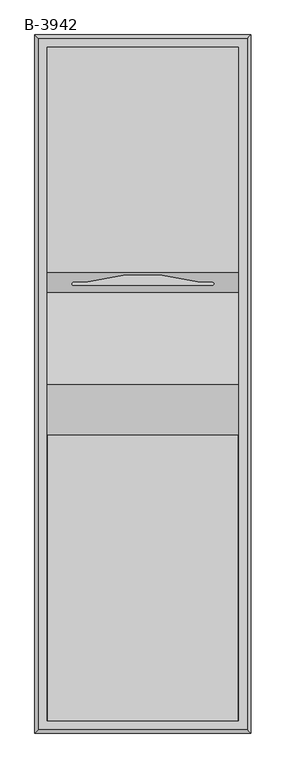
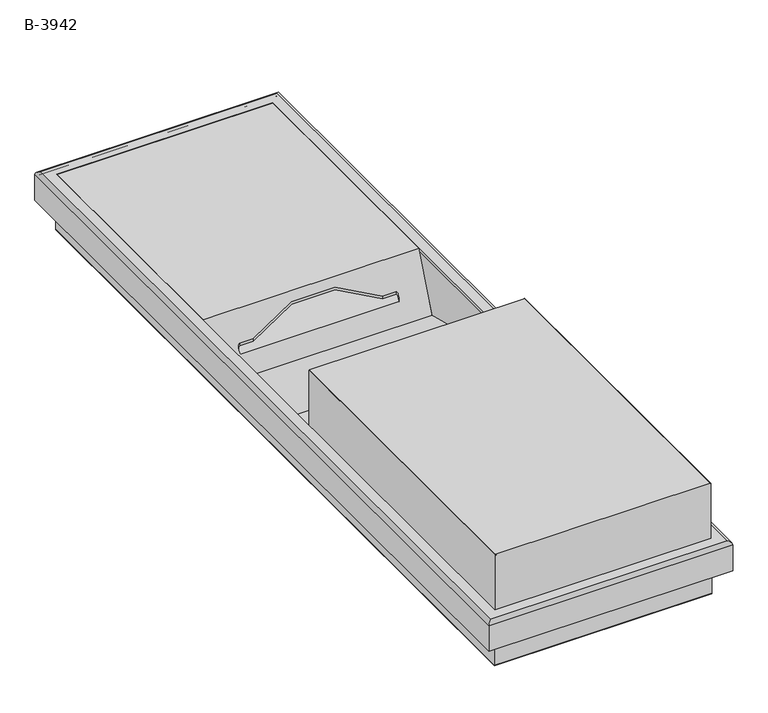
"""IFC4 building model written with IfcOpenShell, lengths in millimetres: proxy geometry, Paper_Towel_Dispenser_And_Waste_Receptacle-Bobrick-B3942-Semi_Recessed_Convertible : B-3942."""

from ifc_helpers import new_model, si_unit, frame, origin, place, context, project, spatial, polyline, circle_curve, ellipse_curve, outline, extrude, source, transform, mapped, element, save
from ifc_brep_helpers import plane_surface, cylinder_surface, revolved_surface, advanced_brep


def b_3942_52b249c4(model_context):
    return source(origin(), model_context, "Body", "SolidModel", [
        advanced_brep(
        [(215.10625, -708.025, 55.5625), (221.45625, -714.375, 49.2125), (221.45625, 714.375, 49.2125), (215.10625, 708.025, 55.5625), (196.05625, -688.975, 50.8), (196.05625, -688.975, 55.5625), (196.05625, 688.975, 55.5625), (196.05625, 688.975, 50.8), (216.69375, -709.6125, 47.625), (213.51875, -706.4375, 50.8), (213.51875, 706.4375, 50.8), (216.69375, 709.6125, 47.625), (216.69375, 709.6125, 0.0), (216.69375, -709.6125, 0.0), (221.45625, -714.375, 0.0), (221.45625, 714.375, 0.0), (-221.45625, 714.375, 49.2125), (-215.10625, 708.025, 55.5625), (-196.05625, 688.975, 55.5625), (-196.05625, 688.975, 50.8), (-213.51875, 706.4375, 50.8), (-216.69375, 709.6125, 47.625), (-216.69375, 709.6125, 0.0), (-221.45625, 714.375, 0.0), (-221.45625, -714.375, 49.2125), (-215.10625, -708.025, 55.5625), (-196.05625, -688.975, 55.5625), (-196.05625, -688.975, 50.8), (-213.51875, -706.4375, 50.8), (-216.69375, -709.6125, 47.625), (-216.69375, -709.6125, 0.0), (-221.45625, -714.375, 0.0)],
        [
            (0, 1, ellipse_curve(frame((215.10625, -708.025, 49.2125), z_axis=(0.7071067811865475, 0.7071067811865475, 0.0), x_axis=(0.7071067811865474, -0.7071067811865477, 0.0)), 8.9802561, 6.35)),
            (1, 2),
            (2, 3, ellipse_curve(frame((215.10625, 708.025, 49.2125), z_axis=(0.7071067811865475, -0.7071067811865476, 0.0), x_axis=(-0.7071067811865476, -0.7071067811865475, 0.0)), 8.9802561, 6.35)),
            (3, 0),
            (4, 5),
            (5, 6),
            (6, 7),
            (7, 4),
            (8, 9, ellipse_curve(frame((213.51875, -706.4375, 47.625), z_axis=(-0.7071067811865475, -0.7071067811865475, 0.0), x_axis=(-0.7071067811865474, 0.7071067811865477, 0.0)), 4.4901281, 3.175)),
            (9, 10),
            (10, 11, ellipse_curve(frame((213.51875, 706.4375, 47.625), z_axis=(-0.7071067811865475, 0.7071067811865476, 0.0), x_axis=(0.7071067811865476, 0.7071067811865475, 0.0)), 4.4901281, 3.175)),
            (11, 8),
            (11, 12),
            (12, 13),
            (13, 8),
            (1, 14),
            (14, 15),
            (15, 2),
            (2, 16),
            (16, 17, ellipse_curve(frame((-215.10625, 708.025, 49.2125), z_axis=(0.7071067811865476, 0.7071067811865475, 0.0), x_axis=(0.7071067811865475, -0.7071067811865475, 0.0)), 8.9802561, 6.35)),
            (17, 3),
            (6, 18),
            (18, 19),
            (19, 7),
            (10, 20),
            (20, 21, ellipse_curve(frame((-213.51875, 706.4375, 47.625), z_axis=(-0.7071067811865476, -0.7071067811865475, 0.0), x_axis=(-0.7071067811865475, 0.7071067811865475, 0.0)), 4.4901281, 3.175)),
            (21, 11),
            (21, 22),
            (22, 12),
            (15, 23),
            (23, 16),
            (16, 24),
            (24, 25, ellipse_curve(frame((-215.10625, -708.025, 49.2125), z_axis=(-0.7071067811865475, 0.7071067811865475, 0.0), x_axis=(0.7071067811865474, 0.7071067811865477, 0.0)), 8.9802561, 6.35)),
            (25, 17),
            (18, 26),
            (26, 27),
            (27, 19),
            (20, 28),
            (28, 29, ellipse_curve(frame((-213.51875, -706.4375, 47.625), z_axis=(0.7071067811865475, -0.7071067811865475, 0.0), x_axis=(-0.7071067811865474, -0.7071067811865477, 0.0)), 4.4901281, 3.175)),
            (29, 21),
            (29, 30),
            (30, 22),
            (23, 31),
            (31, 24),
            (0, 25),
            (24, 1),
            (5, 26),
            (4, 27),
            (9, 28),
            (8, 29),
            (13, 30),
            (14, 31),
        ],
        [
            cylinder_surface(frame((215.10625, -714.375, 49.2125), z_axis=(0.0, -1.0, 0.0), x_axis=(-1.0, 0.0, 0.0)), 6.35),
            plane_surface(frame((196.05625, -688.975, 55.5625), z_axis=(-1.0, 0.0, 0.0), x_axis=(0.0, 1.0, 0.0))),
            revolved_surface(polyline([(210.34375, 709.6125000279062, 47.625), (210.34375, -709.6125000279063, 47.625)]), (213.51875, -714.375, 47.625), (0.0, 1.0, 0.0)),
            plane_surface(frame((216.69375, -709.6125, 47.625), z_axis=(-1.0, 0.0, 0.0), x_axis=(0.0, 1.0, 0.0))),
            plane_surface(frame((221.45625, -714.375, 0.0), z_axis=(1.0, 0.0, 0.0), x_axis=(0.0, 1.0, 0.0))),
            cylinder_surface(frame((221.45625, 708.025, 49.2125), z_axis=(1.0, 0.0, 0.0), x_axis=(0.0, -1.0, 0.0)), 6.35),
            plane_surface(frame((196.05625, 688.975, 55.5625), z_axis=(0.0, -1.0, 0.0), x_axis=(-1.0, 0.0, 0.0))),
            revolved_surface(polyline([(-216.69375002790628, 703.2625, 47.625), (216.69375002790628, 703.2625, 47.625)]), (221.45625, 706.4375, 47.625), (-1.0, 0.0, 0.0)),
            plane_surface(frame((216.69375, 709.6125, 47.625), z_axis=(0.0, -1.0, 0.0), x_axis=(-1.0, 0.0, 0.0))),
            plane_surface(frame((221.45625, 714.375, 0.0), z_axis=(0.0, 1.0, 0.0), x_axis=(-1.0, 0.0, 0.0))),
            cylinder_surface(frame((-215.10625, 714.375, 49.2125), z_axis=(0.0, 1.0, 0.0), x_axis=(1.0, 0.0, 0.0)), 6.35),
            plane_surface(frame((-196.05625, 688.975, 55.5625), z_axis=(1.0, 0.0, 0.0), x_axis=(0.0, -1.0, 0.0))),
            revolved_surface(polyline([(-210.34375, -709.6125000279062, 47.625), (-210.34375, 709.6125000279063, 47.625)]), (-213.51875, 714.375, 47.625), (0.0, -1.0, 0.0)),
            plane_surface(frame((-216.69375, 709.6125, 47.625), z_axis=(1.0, 0.0, 0.0), x_axis=(0.0, -1.0, 0.0))),
            plane_surface(frame((-221.45625, 714.375, 0.0), z_axis=(-1.0, 0.0, 0.0), x_axis=(0.0, -1.0, 0.0))),
            cylinder_surface(frame((-221.45625, -708.025, 49.2125), z_axis=(-1.0, 0.0, 0.0), x_axis=(0.0, 1.0, 0.0)), 6.35),
            plane_surface(frame((-215.10625, -708.025, 55.5625), z_axis=(0.0, 0.0, 1.0), x_axis=(1.0, 0.0, 0.0))),
            plane_surface(frame((-196.05625, -688.975, 55.5625), z_axis=(0.0, 1.0, 0.0), x_axis=(1.0, 0.0, 0.0))),
            plane_surface(frame((-196.05625, -688.975, 50.8), z_axis=(0.0, 0.0, -1.0), x_axis=(1.0, 0.0, 0.0))),
            revolved_surface(polyline([(216.69375002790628, -703.2625, 47.625), (-216.69375002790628, -703.2625, 47.625)]), (-221.45625, -706.4375, 47.625), (1.0, 0.0, 0.0)),
            plane_surface(frame((-216.69375, -709.6125, 47.625), z_axis=(0.0, 1.0, 0.0), x_axis=(1.0, 0.0, 0.0))),
            plane_surface(frame((-216.69375, -709.6125, 0.0), z_axis=(0.0, 0.0, -1.0), x_axis=(1.0, 0.0, 0.0))),
            plane_surface(frame((-221.45625, -714.375, 0.0), z_axis=(0.0, -1.0, 0.0), x_axis=(1.0, 0.0, 0.0))),
        ],
        [
            (0, [[1, 2, 3, 4]]),
            (1, [[5, 6, 7, 8]]),
            (2, [[9, 10, 11, 12]]),
            (3, [[-12, 13, 14, 15]]),
            (4, [[-2, 16, 17, 18]]),
            (5, [[-3, 19, 20, 21]]),
            (6, [[-7, 22, 23, 24]]),
            (7, [[-11, 25, 26, 27]]),
            (8, [[-13, -27, 28, 29]]),
            (9, [[-18, 30, 31, -19]]),
            (10, [[-20, 32, 33, 34]]),
            (11, [[-23, 35, 36, 37]]),
            (12, [[-26, 38, 39, 40]]),
            (13, [[-28, -40, 41, 42]]),
            (14, [[-31, 43, 44, -32]]),
            (15, [[-1, 45, -33, 46]]),
            (16, [[-4, -21, -34, -45], [-6, 47, -35, -22]]),
            (17, [[-5, 48, -36, -47]]),
            (18, [[-10, 49, -38, -25], [-8, -24, -37, -48]]),
            (19, [[-9, 50, -39, -49]]),
            (20, [[-15, 51, -41, -50]]),
            (21, [[-17, 52, -43, -30], [-14, -29, -42, -51]]),
            (22, [[-16, -46, -44, -52]]),
        ],
    ),
        advanced_brep(
        [(197.64375, 690.5625, 50.8), (-197.64375, 690.5625, 50.8), (-197.64375, -690.5625, 50.8), (197.64375, -690.5625, 50.8), (196.05625, -688.975, 50.8), (-196.05625, -688.975, 50.8), (-196.05625, 226.695, 50.8), (-196.05625, 228.6, 50.8), (-196.05625, 688.975, 50.8), (196.05625, 688.975, 50.8), (196.05625, 228.6, 50.8), (196.05625, 226.695, 50.8), (197.64375, 690.5625, -49.2125), (197.64375, -690.5625, -49.2125), (-197.64375, -690.5625, -49.2125), (-197.64375, 690.5625, -49.2125), (196.05625, 688.975, -49.2125), (-196.05625, 688.975, -49.2125), (-196.05625, 188.595, -49.2125), (196.05625, 188.595, -49.2125), (-196.05625, -688.975, -49.2125), (196.05625, -688.975, -49.2125), (196.05625, -104.775, -49.2125), (-196.05625, -104.775, -49.2125), (196.05625, 187.325, -47.625), (196.05625, 0.0, 0.0), (-196.05625, 0.0, 0.0), (-196.05625, 187.325, -47.625), (196.05625, 688.975, 50.8), (196.05625, 688.975, 55.5625), (196.05625, 228.6, 55.5625), (-196.05625, 228.6, 55.5625), (-196.05625, 688.975, 55.5625), (-196.05625, 688.975, 50.8), (142.08125, 201.6125, -11.90625), (-142.08125, 201.6125, -11.90625), (-142.08125, 207.9625, 3.96875), (-117.475, 207.9625, 3.96875), (117.475, 207.9625, 3.96875), (142.08125, 207.9625, 3.96875), (-142.08125, 201.6125, -16.66875), (142.08125, 201.6125, -16.66875), (142.08125, 207.9625, -0.79375), (117.475, 207.9625, -0.79375), (-117.475, 207.9625, -0.79375), (-142.08125, 207.9625, -0.79375)],
        [
            (0, 1),
            (1, 2),
            (2, 3),
            (3, 0),
            (4, 5),
            (5, 6),
            (6, 7),
            (7, 8),
            (8, 9),
            (9, 10),
            (10, 11),
            (11, 4),
            (12, 13),
            (13, 14),
            (14, 15),
            (15, 12),
            (16, 17),
            (17, 18),
            (18, 19),
            (19, 16),
            (20, 21),
            (21, 22),
            (22, 23),
            (23, 20),
            (0, 12),
            (15, 1),
            (14, 2),
            (13, 3),
            (9, 16),
            (19, 10),
            (21, 4),
            (11, 24),
            (24, 25),
            (25, 22),
            (20, 5),
            (23, 26),
            (26, 27),
            (27, 6),
            (17, 8),
            (7, 18),
            (10, 28),
            (28, 29),
            (29, 30),
            (30, 11),
            (31, 32),
            (32, 33),
            (33, 7),
            (6, 31),
            (10, 7),
            (33, 28),
            (32, 29),
            (31, 30),
            (27, 24),
            (34, 35),
            (35, 36, ellipse_curve(frame((-142.08125, 204.7875, -3.96875), z_axis=(0.0, 0.9284766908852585, -0.37139067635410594), x_axis=(0.0, -0.371390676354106, -0.9284766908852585)), 8.5489491, 3.175)),
            (36, 37),
            (37, 38, ellipse_curve(frame((0.0, -215.9738116, -1055.872029), z_axis=(0.0, 0.9284766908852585, -0.37139067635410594), x_axis=(0.0, -0.371390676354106, -0.9284766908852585)), 1184.498711, 439.9117774)),
            (38, 39),
            (39, 34, ellipse_curve(frame((142.08125, 204.7875, -3.96875), z_axis=(0.0, 0.9284766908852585, -0.37139067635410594), x_axis=(0.0, -0.371390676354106, -0.9284766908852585)), 8.5489491, 3.175)),
            (40, 41),
            (41, 42, ellipse_curve(frame((142.08125, 204.7875, -8.73125), z_axis=(0.0, -0.9284766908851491, 0.3713906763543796), x_axis=(0.0, -0.3713906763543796, -0.928476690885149)), 8.5489491, 3.175)),
            (42, 43),
            (43, 44, ellipse_curve(frame((0.0, -215.9738116, -1060.634529), z_axis=(0.0, -0.9284766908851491, 0.3713906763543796), x_axis=(0.0, -0.3713906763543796, -0.928476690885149)), 1184.498711, 439.9117774)),
            (44, 45),
            (45, 40, ellipse_curve(frame((-142.08125, 204.7875, -8.73125), z_axis=(0.0, -0.9284766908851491, 0.3713906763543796), x_axis=(0.0, -0.3713906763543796, -0.928476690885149)), 8.5489491, 3.175)),
            (26, 25),
            (34, 41),
            (40, 35),
            (45, 36),
            (44, 37),
            (43, 38),
            (42, 39),
        ],
        [
            plane_surface(frame((-197.64375, 690.5625, 50.8), z_axis=(0.0, 0.0, 1.0), x_axis=(-1.0, 0.0, 0.0))),
            plane_surface(frame((-197.64375, 690.5625, -49.2125), z_axis=(0.0, 0.0, -1.0), x_axis=(1.0, 0.0, 0.0))),
            plane_surface(frame((197.64375, 690.5625, 50.8), z_axis=(0.0, 1.0, 0.0), x_axis=(0.0, 0.0, -1.0))),
            plane_surface(frame((-197.64375, 690.5625, 50.8), z_axis=(-1.0, 0.0, 0.0), x_axis=(0.0, 0.0, -1.0))),
            plane_surface(frame((-197.64375, -690.5625, 50.8), z_axis=(0.0, -1.0, 0.0), x_axis=(0.0, 0.0, -1.0))),
            plane_surface(frame((197.64375, -690.5625, 50.8), z_axis=(1.0, 0.0, 0.0), x_axis=(0.0, 0.0, -1.0))),
            plane_surface(frame((196.05625, 688.975, 50.8), z_axis=(-1.0, 0.0, 0.0), x_axis=(0.0, 0.0, -1.0))),
            plane_surface(frame((196.05625, -688.975, 50.8), z_axis=(0.0, 1.0, 0.0), x_axis=(0.0, 0.0, -1.0))),
            plane_surface(frame((-196.05625, -688.975, 50.8), z_axis=(1.0, 0.0, 0.0), x_axis=(0.0, 0.0, -1.0))),
            plane_surface(frame((-196.05625, 688.975, 50.8), z_axis=(0.0, -1.0, 0.0), x_axis=(0.0, 0.0, -1.0))),
            plane_surface(frame((196.05625, 228.6, 55.5625), z_axis=(1.0000000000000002, 0.0, 0.0), x_axis=(0.0, -0.37139067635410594, -0.9284766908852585))),
            plane_surface(frame((-196.05625, 228.6, 55.5625), z_axis=(-1.0000000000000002, 0.0, 0.0), x_axis=(0.0, 0.37139067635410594, 0.9284766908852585))),
            plane_surface(frame((196.05625, 228.6, 50.8), z_axis=(0.0, 0.0, -1.0), x_axis=(-1.0, 0.0, 0.0))),
            plane_surface(frame((196.05625, 688.975, 50.8), z_axis=(0.0, 1.0, 0.0), x_axis=(-1.0, 0.0, 0.0))),
            plane_surface(frame((196.05625, 688.975, 55.5625), z_axis=(0.0, 0.0, 1.0), x_axis=(-1.0, 0.0, 0.0))),
            plane_surface(frame((196.05625, 228.6, 55.5625), z_axis=(0.0, -0.9284766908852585, 0.37139067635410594), x_axis=(-1.0, 0.0, 0.0))),
            plane_surface(frame((196.05625, 188.595, -49.2125), z_axis=(0.0, 0.9284766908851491, -0.3713906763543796), x_axis=(-1.0, 0.0, 0.0))),
            plane_surface(frame((196.05625, 187.325, -47.625), z_axis=(0.0, 0.2463987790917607, 0.9691685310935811), x_axis=(-1.0, 0.0, 0.0))),
            plane_surface(frame((196.05625, 0.0, 0.0), z_axis=(0.0, -0.42513647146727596, 0.9051292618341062), x_axis=(-1.0, 0.0, 0.0))),
            plane_surface(frame((142.08125, 201.6125, -49.2125), z_axis=(0.0, 1.0, 0.0), x_axis=(0.0, 0.0, 1.0))),
            revolved_surface(polyline([(-138.90625, 204.7875, -16.66874999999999), (-138.90625, 204.7875, 3.96875)]), (-142.08125, 204.7875, 161.925), (0.0, 0.0, -1.0)),
            plane_surface(frame((-142.08125, 207.9625, -49.2125), z_axis=(0.0, -1.0, 0.0), x_axis=(0.0, 0.0, 1.0))),
            revolved_surface(polyline([(439.9117774, -215.9738116, -2160.413972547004), (439.9117774, -215.9738116, 43.907414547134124)]), (0.0, -215.9738116, 161.925), (0.0, 0.0, -1.0)),
            plane_surface(frame((117.475, 207.9625, -49.2125), z_axis=(0.0, -1.0, 0.0), x_axis=(0.0, 0.0, 1.0))),
            revolved_surface(polyline([(145.25625000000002, 204.7875, -16.66874999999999), (145.25625000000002, 204.7875, 3.96875)]), (142.08125, 204.7875, 161.925), (0.0, 0.0, -1.0)),
        ],
        [
            (0, [[1, 2, 3, 4], [5, 6, 7, 8, 9, 10, 11, 12]]),
            (1, [[13, 14, 15, 16], [17, 18, 19, 20], [21, 22, 23, 24]]),
            (2, [[-1, 25, -16, 26]]),
            (3, [[-2, -26, -15, 27]]),
            (4, [[-3, -27, -14, 28]]),
            (5, [[-4, -28, -13, -25]]),
            (6, [[29, -20, 30, -10]]),
            (6, [[31, -12, 32, 33, 34, -22]]),
            (7, [[-5, -31, -21, 35]]),
            (8, [[-35, -24, 36, 37, 38, -6]]),
            (8, [[39, -8, 40, -18]]),
            (9, [[-9, -39, -17, -29]]),
            (10, [[41, 42, 43, 44, -11]]),
            (11, [[45, 46, 47, -7, 48]]),
            (12, [[-41, 49, -47, 50]]),
            (13, [[-42, -50, -46, 51]]),
            (14, [[-43, -51, -45, 52]]),
            (15, [[-52, -48, -38, 53, -32, -44], [54, 55, 56, 57, 58, 59]]),
            (16, [[-49, -30, -19, -40], [60, 61, 62, 63, 64, 65]]),
            (17, [[-53, -37, 66, -33]]),
            (18, [[-23, -34, -66, -36]]),
            (19, [[67, -60, 68, -54]]),
            (20, [[-68, -65, 69, -55]]),
            (21, [[-69, -64, 70, -56]]),
            (22, [[-70, -63, 71, -57]]),
            (23, [[-71, -62, 72, -58]]),
            (24, [[-67, -59, -72, -61]]),
        ],
    ),
        advanced_brep(
        [(196.05625, -688.975, 160.734375), (194.865625, -688.975, 161.925), (-194.8804172, -688.975, 161.925), (-196.05625, -688.975, 160.7491672), (-196.05625, -688.975, -49.2125), (196.05625, -688.975, -49.2125), (-193.2929172, -688.975, 160.3375), (-194.46875, -688.975, 159.1616672), (-194.46875, -688.975, 160.3375), (-194.46875, -687.3875, 159.1616672), (-193.2929172, -687.3875, 160.3375), (194.46875, -687.3875, 160.3375), (194.46875, -687.3875, -47.625), (-194.46875, -687.3875, -47.625), (-196.05625, -104.775, -49.2125), (196.05625, -104.775, -49.2125), (196.05625, -104.775, 160.734375), (194.865625, -104.775, 161.925), (-196.05625, -104.775, 160.7491672), (-194.8804172, -104.775, 161.925), (194.46875, -104.775, 160.3375), (-194.46875, -104.775, 160.3375), (-194.46875, -104.775, -47.625), (194.46875, -104.775, -47.625)],
        [
            (0, 1, circle_curve(frame((194.865625, -688.975, 160.734375), z_axis=(0.0, -1.0, 0.0), x_axis=(1.0, 0.0, 0.0)), 1.190625)),
            (1, 2),
            (2, 3, circle_curve(frame((-194.8804172, -688.975, 160.7491672), z_axis=(0.0, -1.0, 0.0), x_axis=(1.0, 0.0, 0.0)), 1.1758328)),
            (3, 4),
            (4, 5),
            (5, 0),
            (6, 7, circle_curve(frame((-193.2929172, -688.975, 159.1616672), z_axis=(0.0, -1.0, 0.0), x_axis=(1.0, 0.0, 0.0)), 1.1758328)),
            (7, 8),
            (8, 6),
            (9, 10, circle_curve(frame((-193.2929172, -687.3875, 159.1616672), z_axis=(0.0, 1.0, 0.0), x_axis=(1.0, 0.0, 0.0)), 1.1758328)),
            (10, 11),
            (11, 12),
            (12, 13),
            (13, 9),
            (4, 14),
            (14, 15),
            (15, 5),
            (15, 16),
            (16, 0),
            (17, 16, circle_curve(frame((194.865625, -104.775, 160.734375), z_axis=(0.0, 1.0, 0.0), x_axis=(1.0, 0.0, 0.0)), 1.190625)),
            (14, 18),
            (18, 19, circle_curve(frame((-194.8804172, -104.775, 160.7491672), z_axis=(0.0, 1.0, 0.0), x_axis=(1.0, 0.0, 0.0)), 1.1758328)),
            (19, 17),
            (20, 21),
            (21, 22),
            (22, 23),
            (23, 20),
            (1, 17),
            (19, 2),
            (3, 18),
            (23, 12),
            (11, 20),
            (22, 13),
            (21, 8),
            (7, 9),
            (10, 6),
        ],
        [
            plane_surface(frame((-196.05625, -688.975, 160.3375), z_axis=(0.0, -1.0, 0.0), x_axis=(-1.0, 0.0, 0.0))),
            plane_surface(frame((-196.05625, -687.3875, 160.3375), z_axis=(0.0, 1.0, 0.0), x_axis=(1.0, 0.0, 0.0))),
            plane_surface(frame((-194.46875, -688.975, -49.2125), z_axis=(0.0, 0.0, -1.0), x_axis=(0.0, 1.0, 0.0))),
            plane_surface(frame((196.05625, -688.975, -49.2125), z_axis=(1.0, 0.0, 0.0), x_axis=(0.0, 1.0, 0.0))),
            plane_surface(frame((-196.05625, -104.775, 161.925), z_axis=(0.0, 1.0, 0.0), x_axis=(1.0, 0.0, 0.0))),
            plane_surface(frame((194.865625, -688.975, 161.925), z_axis=(0.0, 0.0, 1.0), x_axis=(0.0, 1.0, 0.0))),
            plane_surface(frame((-196.05625, -688.975, 160.7491672), z_axis=(-1.0, 0.0, 0.0), x_axis=(0.0, 1.0, 0.0))),
            plane_surface(frame((194.46875, -688.975, 160.3375), z_axis=(-1.0, 0.0, 0.0), x_axis=(0.0, 1.0, 0.0))),
            plane_surface(frame((194.46875, -688.975, -47.625), z_axis=(0.0, 0.0, 1.0), x_axis=(0.0, 1.0, 0.0))),
            plane_surface(frame((-194.46875, -688.975, -47.625), z_axis=(1.0, 0.0, 0.0), x_axis=(0.0, 1.0, 0.0))),
            plane_surface(frame((-194.46875, -688.975, 160.3375), z_axis=(0.0, 0.0, -1.0), x_axis=(0.0, 1.0, 0.0))),
            cylinder_surface(frame((-194.8804172, -104.775, 160.7491672), z_axis=(0.0, -1.0, 0.0), x_axis=(1.0, 0.0, 0.0)), 1.1758328),
            cylinder_surface(frame((194.865625, -104.775, 160.734375), z_axis=(0.0, -1.0, 0.0), x_axis=(1.0, 0.0, 0.0)), 1.190625),
            cylinder_surface(frame((-193.2929172, -687.3875, 159.1616672), z_axis=(0.0, -1.0, 0.0), x_axis=(1.0, 0.0, 0.0)), 1.1758328),
        ],
        [
            (0, [[1, 2, 3, 4, 5, 6], [7, 8, 9]]),
            (1, [[10, 11, 12, 13, 14]]),
            (2, [[-5, 15, 16, 17]]),
            (3, [[-6, -17, 18, 19]]),
            (4, [[20, -18, -16, 21, 22, 23], [24, 25, 26, 27]]),
            (5, [[-2, 28, -23, 29]]),
            (6, [[-4, 30, -21, -15]]),
            (7, [[-27, 31, -12, 32]]),
            (8, [[-26, 33, -13, -31]]),
            (9, [[-25, 34, -8, 35, -14, -33]]),
            (10, [[-24, -32, -11, 36, -9, -34]]),
            (11, [[-3, -29, -22, -30]]),
            (12, [[-1, -19, -20, -28]]),
            (13, [[-7, -36, -10, -35]]),
        ],
    ),
        extrude(outline(polyline([(197.64375, 690.5625), (197.64375, -690.5625), (-197.64375, -690.5625), (-197.64375, 690.5625), (197.64375, 690.5625)])), frame((0.0, 0.0, -50.8), z_axis=(0.0, 0.0, 1.0), x_axis=(1.0, 0.0, 0.0)), (0.0, 0.0, 1.0), 1.5875),
    ])


if __name__ == "__main__":
    model = new_model("IFC4")
    model_context = context("Model", 3, world=origin())
    ifc_project = project(units=[si_unit("LENGTHUNIT", "METRE", prefix="MILLI")], contexts=[model_context])
    site = spatial("IfcSite", under=ifc_project)
    building = spatial("IfcBuilding", under=site)
    placement = place(None, origin())
    b_3942_shape = b_3942_52b249c4(model_context)
    element("IfcBuildingElementProxy", 1, Name="Paper_Towel_Dispenser_And_Waste_Receptacle-Bobrick-B3942-Semi_Recessed_Convertible : B-3942", ObjectType="Paper_Towel_Dispenser_And_Waste_Receptacle-Bobrick-B3942-Semi_Recessed_Convertible : B-3942", at=placement, inside=building, context=model_context, shape_type="MappedRepresentation", body=[
        mapped(b_3942_shape, transform((0.0, 0.0, 0.0), x_axis=(1.0, 0.0, 0.0), y_axis=(0.0, 1.0, 0.0), z_axis=(0.0, 0.0, 1.0))),
    ])
    save(model, "model.ifc")
